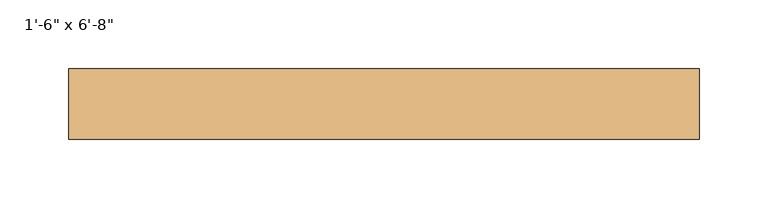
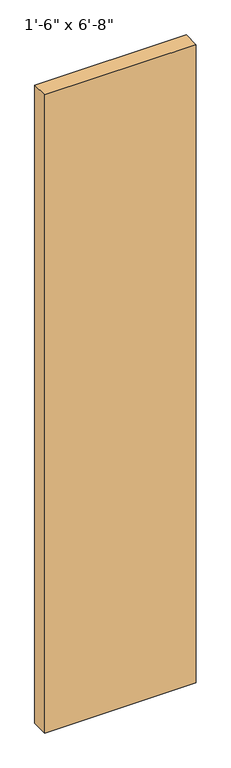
"""IFC4 building model written with IfcOpenShell, lengths in millimetres: door geometry."""

from ifc_helpers import new_model, si_unit, origin, origin_with_axes, place, context, project, spatial, polyline, outline, extrude, source, transform, mapped, element, save


def door_06143b9a(model_context):
    return source(origin(), model_context, "Body", "SweptSolid", [
        extrude(outline(polyline([(228.6, 6.1515625), (-228.6, 6.1515625), (-228.6, 57.15), (228.6, 57.15), (228.6, 6.1515625)])), origin_with_axes(), (0.0, 0.0, 1.0), 2032.0),
    ])


if __name__ == "__main__":
    model = new_model("IFC4")
    model_context = context("Model", 3, world=origin())
    ifc_project = project(units=[si_unit("LENGTHUNIT", "METRE", prefix="MILLI")], contexts=[model_context])
    site = spatial("IfcSite", under=ifc_project)
    building = spatial("IfcBuilding", under=site)
    placement = place(None, origin())
    door_shape = door_06143b9a(model_context)
    element("IfcDoor", 1, ObjectType="Planitar - Single Door_Flush Panel : 1'-6\" x 6'-8\"", at=placement, inside=building, context=model_context, shape_type="MappedRepresentation", body=[
        mapped(door_shape, transform((0.0, 0.0, 0.0), x_axis=(1.0, 0.0, 0.0), y_axis=(0.0, 1.0, 0.0), z_axis=(0.0, 0.0, 1.0))),
    ])
    save(model, "model.ifc")
